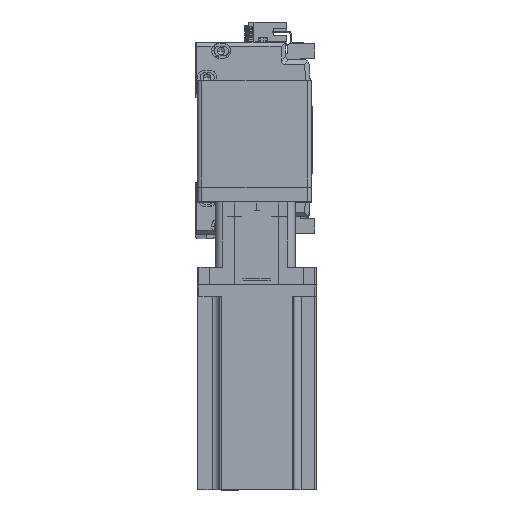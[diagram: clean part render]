
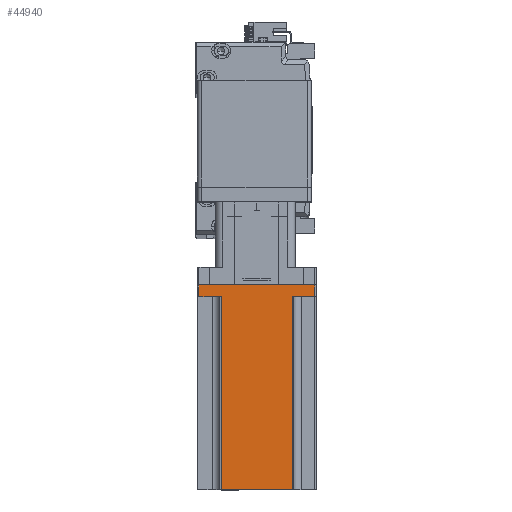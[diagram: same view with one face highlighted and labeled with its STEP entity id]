
A CAD part, top view. The second image highlights one B-rep face of the part: STEP entity #44940.
In plain terms, the highlighted planar face has unit normal (0, 0, 1) as drawn and (0, 1, 0) by its records, which use the part's own axes.
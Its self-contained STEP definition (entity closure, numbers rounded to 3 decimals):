
#236 = LINE ( 'NONE', #49163, #21822 ) ;
#411 = DIRECTION ( 'NONE',  ( 1., 0., 0. ) ) ;
#600 = ORIENTED_EDGE ( 'NONE', *, *, #52469, .T. ) ;
#3134 = LINE ( 'NONE', #40924, #13338 ) ;
#4530 = VERTEX_POINT ( 'NONE', #11157 ) ;
#5617 = FACE_OUTER_BOUND ( 'NONE', #22661, .T. ) ;
#6121 = VECTOR ( 'NONE', #33529, 1000. ) ;
#6725 = VECTOR ( 'NONE', #15522, 1000. ) ;
#6983 = CARTESIAN_POINT ( 'NONE',  ( -39., 40., 0. ) ) ;
#8381 = EDGE_CURVE ( 'NONE', #4530, #36628, #236, .T. ) ;
#10491 = DIRECTION ( 'NONE',  ( 0., -1., 0. ) ) ;
#11157 = CARTESIAN_POINT ( 'NONE',  ( 39., 40., 8. ) ) ;
#11522 = EDGE_CURVE ( 'NONE', #16987, #54663, #3134, .T. ) ;
#11723 = VECTOR ( 'NONE', #40200, 1000. ) ;
#12208 = LINE ( 'NONE', #21744, #20860 ) ;
#12492 = CARTESIAN_POINT ( 'NONE',  ( -24., 40., 138.3 ) ) ;
#12741 = DIRECTION ( 'NONE',  ( -1., 0., 0. ) ) ;
#13084 = VECTOR ( 'NONE', #12741, 1000. ) ;
#13338 = VECTOR ( 'NONE', #19747, 1000. ) ;
#13673 = ORIENTED_EDGE ( 'NONE', *, *, #37070, .T. ) ;
#13678 = ORIENTED_EDGE ( 'NONE', *, *, #51481, .T. ) ;
#14815 = VERTEX_POINT ( 'NONE', #51624 ) ;
#15232 = DIRECTION ( 'NONE',  ( 0., 0., 1. ) ) ;
#15522 = DIRECTION ( 'NONE',  ( 0., 0., -1. ) ) ;
#16536 = CARTESIAN_POINT ( 'NONE',  ( -39., 40., 8. ) ) ;
#16987 = VERTEX_POINT ( 'NONE', #47149 ) ;
#17303 = ORIENTED_EDGE ( 'NONE', *, *, #30950, .T. ) ;
#18758 = CARTESIAN_POINT ( 'NONE',  ( 24., 40., 8. ) ) ;
#18895 = PLANE ( 'NONE',  #27018 ) ;
#19747 = DIRECTION ( 'NONE',  ( -1., 0., 0. ) ) ;
#20860 = VECTOR ( 'NONE', #411, 1000. ) ;
#20924 = VERTEX_POINT ( 'NONE', #18758 ) ;
#21544 = VECTOR ( 'NONE', #15232, 1000. ) ;
#21744 = CARTESIAN_POINT ( 'NONE',  ( -25., 40., 8. ) ) ;
#21822 = VECTOR ( 'NONE', #32409, 1000. ) ;
#22661 = EDGE_LOOP ( 'NONE', ( #600, #13673, #47396, #45574, #49978, #41307, #17303, #13678 ) ) ;
#24348 = LINE ( 'NONE', #38008, #13084 ) ;
#27018 = AXIS2_PLACEMENT_3D ( 'NONE', #35831, #10491, #40096 ) ;
#27843 = CARTESIAN_POINT ( 'NONE',  ( -39., 40., 138.3 ) ) ;
#29864 = VERTEX_POINT ( 'NONE', #16536 ) ;
#30950 = EDGE_CURVE ( 'NONE', #36628, #45628, #35516, .T. ) ;
#32409 = DIRECTION ( 'NONE',  ( 0., 0., -1. ) ) ;
#33529 = DIRECTION ( 'NONE',  ( 0., 0., 1. ) ) ;
#33667 = EDGE_CURVE ( 'NONE', #16987, #20924, #40600, .T. ) ;
#34034 = LINE ( 'NONE', #27843, #21544 ) ;
#35516 = LINE ( 'NONE', #35935, #11723 ) ;
#35831 = CARTESIAN_POINT ( 'NONE',  ( 40., 40., 138.3 ) ) ;
#35935 = CARTESIAN_POINT ( 'NONE',  ( 40., 40., 0. ) ) ;
#36410 = CARTESIAN_POINT ( 'NONE',  ( 24., 40., 138.3 ) ) ;
#36628 = VERTEX_POINT ( 'NONE', #38938 ) ;
#37070 = EDGE_CURVE ( 'NONE', #14815, #54663, #40037, .T. ) ;
#38008 = CARTESIAN_POINT ( 'NONE',  ( 25., 40., 8. ) ) ;
#38938 = CARTESIAN_POINT ( 'NONE',  ( 39., 40., 0. ) ) ;
#40037 = LINE ( 'NONE', #12492, #6121 ) ;
#40096 = DIRECTION ( 'NONE',  ( 1., 0., 0. ) ) ;
#40200 = DIRECTION ( 'NONE',  ( -1., 0., 0. ) ) ;
#40600 = LINE ( 'NONE', #36410, #6725 ) ;
#40924 = CARTESIAN_POINT ( 'NONE',  ( 40., 40., 138.3 ) ) ;
#41307 = ORIENTED_EDGE ( 'NONE', *, *, #8381, .T. ) ;
#41590 = CARTESIAN_POINT ( 'NONE',  ( -24., 40., 138.3 ) ) ;
#44940 = ADVANCED_FACE ( 'NONE', ( #5617 ), #18895, .F. ) ;
#45211 = EDGE_CURVE ( 'NONE', #4530, #20924, #24348, .T. ) ;
#45574 = ORIENTED_EDGE ( 'NONE', *, *, #33667, .T. ) ;
#45628 = VERTEX_POINT ( 'NONE', #6983 ) ;
#47149 = CARTESIAN_POINT ( 'NONE',  ( 24., 40., 138.3 ) ) ;
#47396 = ORIENTED_EDGE ( 'NONE', *, *, #11522, .F. ) ;
#49163 = CARTESIAN_POINT ( 'NONE',  ( 39., 40., 138.3 ) ) ;
#49978 = ORIENTED_EDGE ( 'NONE', *, *, #45211, .F. ) ;
#51481 = EDGE_CURVE ( 'NONE', #45628, #29864, #34034, .T. ) ;
#51624 = CARTESIAN_POINT ( 'NONE',  ( -24., 40., 8. ) ) ;
#52469 = EDGE_CURVE ( 'NONE', #29864, #14815, #12208, .T. ) ;
#54663 = VERTEX_POINT ( 'NONE', #41590 ) ;
